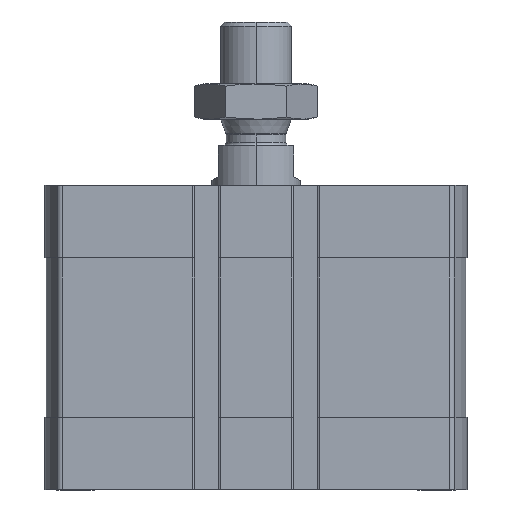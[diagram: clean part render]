
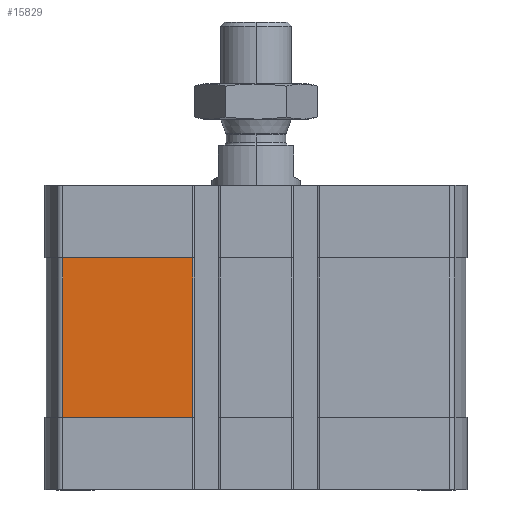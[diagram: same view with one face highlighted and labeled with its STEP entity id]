
A CAD part, left-side view. The second image highlights one B-rep face of the part: STEP entity #15829.
In plain terms, the highlighted planar face has unit normal (-1, 0, 0).
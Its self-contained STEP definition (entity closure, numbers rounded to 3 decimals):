
#628 = ORIENTED_EDGE ( 'NONE', *, *, #2005, .T. ) ;
#949 = LINE ( 'NONE', #4312, #10730 ) ;
#1432 = LINE ( 'NONE', #14106, #7083 ) ;
#2005 = EDGE_CURVE ( 'NONE', #7578, #15725, #9270, .T. ) ;
#2787 = CARTESIAN_POINT ( 'NONE',  ( -47.5, 43.743, -52.5 ) ) ;
#3394 = VECTOR ( 'NONE', #6383, 1000. ) ;
#4006 = CARTESIAN_POINT ( 'NONE',  ( -47.5, 43.743, -52.5 ) ) ;
#4062 = DIRECTION ( 'NONE',  ( 0., 0., 1. ) ) ;
#4312 = CARTESIAN_POINT ( 'NONE',  ( -47.5, 43.743, -52.5 ) ) ;
#5531 = CARTESIAN_POINT ( 'NONE',  ( -47.5, 14.3, -16.5 ) ) ;
#6383 = DIRECTION ( 'NONE',  ( 0., 0., 1. ) ) ;
#7083 = VECTOR ( 'NONE', #12875, 1000. ) ;
#7578 = VERTEX_POINT ( 'NONE', #2787 ) ;
#7606 = AXIS2_PLACEMENT_3D ( 'NONE', #4006, #11575, #4062 ) ;
#7879 = PLANE ( 'NONE',  #7606 ) ;
#8374 = EDGE_CURVE ( 'NONE', #15725, #8611, #11851, .T. ) ;
#8611 = VERTEX_POINT ( 'NONE', #5531 ) ;
#8830 = ORIENTED_EDGE ( 'NONE', *, *, #8374, .T. ) ;
#9270 = LINE ( 'NONE', #11321, #10014 ) ;
#9446 = EDGE_CURVE ( 'NONE', #8611, #12562, #1432, .T. ) ;
#9761 = DIRECTION ( 'NONE',  ( 0., -1., 0. ) ) ;
#10014 = VECTOR ( 'NONE', #9761, 1000. ) ;
#10730 = VECTOR ( 'NONE', #13042, 1000. ) ;
#10842 = ORIENTED_EDGE ( 'NONE', *, *, #11548, .T. ) ;
#11321 = CARTESIAN_POINT ( 'NONE',  ( -47.5, 43.743, -52.5 ) ) ;
#11548 = EDGE_CURVE ( 'NONE', #12562, #7578, #949, .T. ) ;
#11575 = DIRECTION ( 'NONE',  ( -1., 0., 0. ) ) ;
#11799 = ORIENTED_EDGE ( 'NONE', *, *, #9446, .T. ) ;
#11851 = LINE ( 'NONE', #14934, #3394 ) ;
#12562 = VERTEX_POINT ( 'NONE', #12828 ) ;
#12828 = CARTESIAN_POINT ( 'NONE',  ( -47.5, 43.743, -16.5 ) ) ;
#12875 = DIRECTION ( 'NONE',  ( 0., 1., 0. ) ) ;
#13042 = DIRECTION ( 'NONE',  ( 0., 0., -1. ) ) ;
#13817 = EDGE_LOOP ( 'NONE', ( #628, #8830, #11799, #10842 ) ) ;
#14106 = CARTESIAN_POINT ( 'NONE',  ( -47.5, 0., -16.5 ) ) ;
#14934 = CARTESIAN_POINT ( 'NONE',  ( -47.5, 14.3, -52.5 ) ) ;
#15725 = VERTEX_POINT ( 'NONE', #15969 ) ;
#15829 = ADVANCED_FACE ( 'NONE', ( #16000 ), #7879, .T. ) ;
#15969 = CARTESIAN_POINT ( 'NONE',  ( -47.5, 14.3, -52.5 ) ) ;
#16000 = FACE_OUTER_BOUND ( 'NONE', #13817, .T. ) ;
